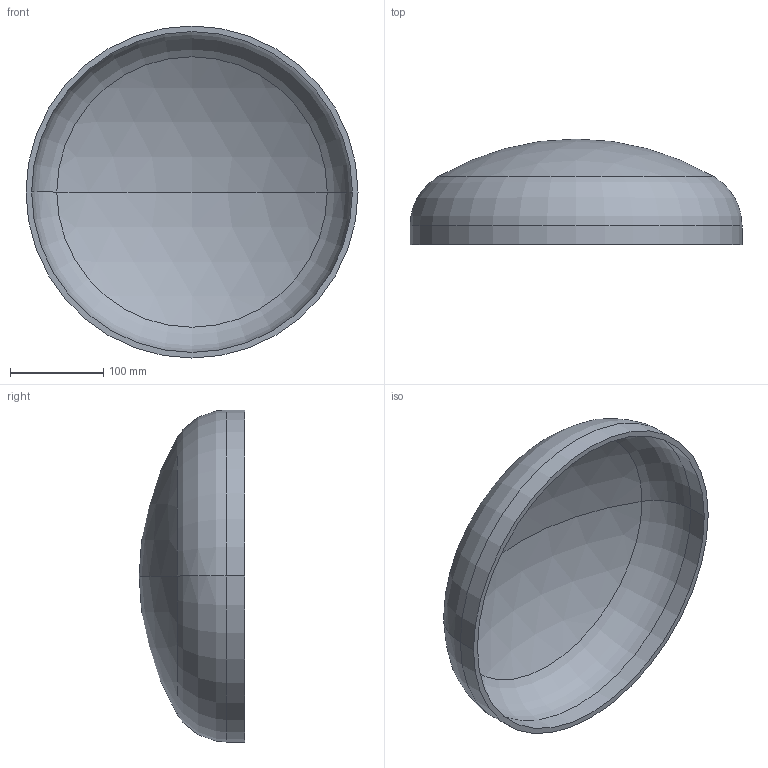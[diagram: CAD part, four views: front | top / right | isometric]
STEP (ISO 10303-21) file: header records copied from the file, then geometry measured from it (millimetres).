
FILE_DESCRIPTION (( 'STEP AP203' ), '1' );
FILE_NAME ('DIN 28013 Korbbogenform_-_Boden DIN 28013 - 355,6 x 20 - I - s=6.step', '2016-07-01T07:46:09', ( '' ), ( '' ), 'SwSTEP 2.0', 'SolidWorks 2013', '' );
FILE_SCHEMA (( 'CONFIG_CONTROL_DESIGN' ));
Length unit declared in the file: millimetre
Products named in the file (1): DIN 28013 Korbbogenform_-_Boden DIN 28013 - 355,6 x 20 - I - s=6
Bounding box: 355.6 x 113.03 x 355.6 mm (x, y, z)
Volume: 939735.5 mm3; surface area: 319910.3 mm2
Topology: 1 solids, 1 shells, 13 faces, 24 edges, 14 vertices
Faces by surface type: torus 4, cylinder 4, sphere 4, plane 1
Entity records: 407 total; most frequent: DIRECTION 72, CARTESIAN_POINT 52, ORIENTED_EDGE 48, AXIS2_PLACEMENT_3D 34, EDGE_CURVE 24, CIRCLE 20, EDGE_LOOP 14, VERTEX_POINT 14
